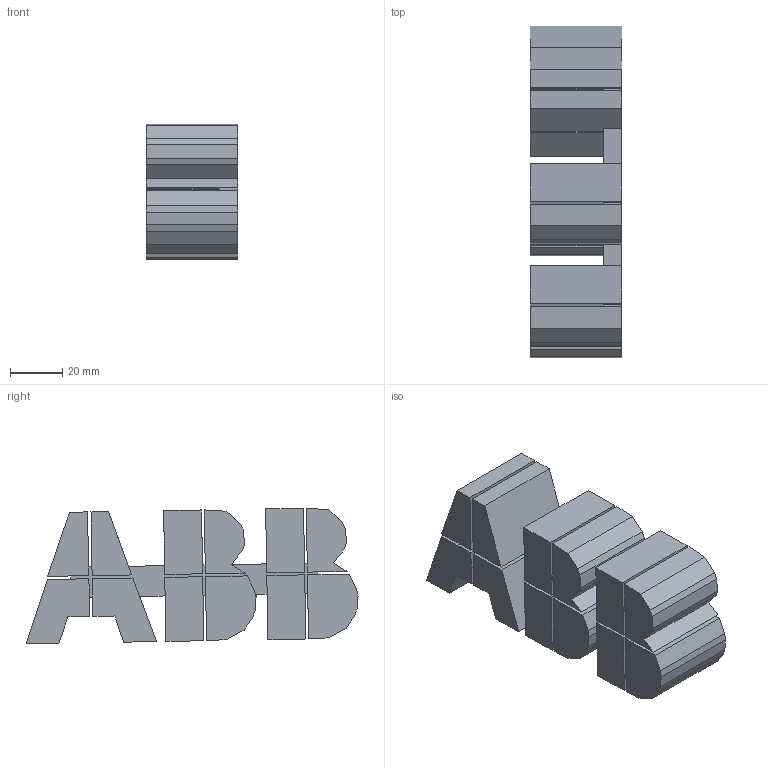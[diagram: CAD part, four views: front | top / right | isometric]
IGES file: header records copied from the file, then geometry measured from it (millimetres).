
Start section: SolidWorks IGES file using analytic representation for surfaces
Global section: file name: B:\Robotics\SEROP_PROJ\Product Development\DevelopmentProjects\RobCal\Design\CAD simuleringsmodeller\Till_RobotStudio\IRB6700-HL\IRB6700_235-265_IRC5_rev02\IRB6700_235-265_IRC5_rev02_IGES_j\IRB6700_235-265_IRC5_rev00_LOGO2_CAD.IGS; native system: SolidWorks 2014; preprocessor: SolidWorks 2014; author: SEEMTHE; date: 160127.112314; units: millimetre
Bounding box: 34.94 x 127.34 x 52.04 mm (x, y, z)
Surface area: 40863.3 mm2 (no closed solid volume)
Topology: 0 solids, 0 shells, 104 faces, 598 edges, 598 vertices
Faces by surface type: bspline 104
